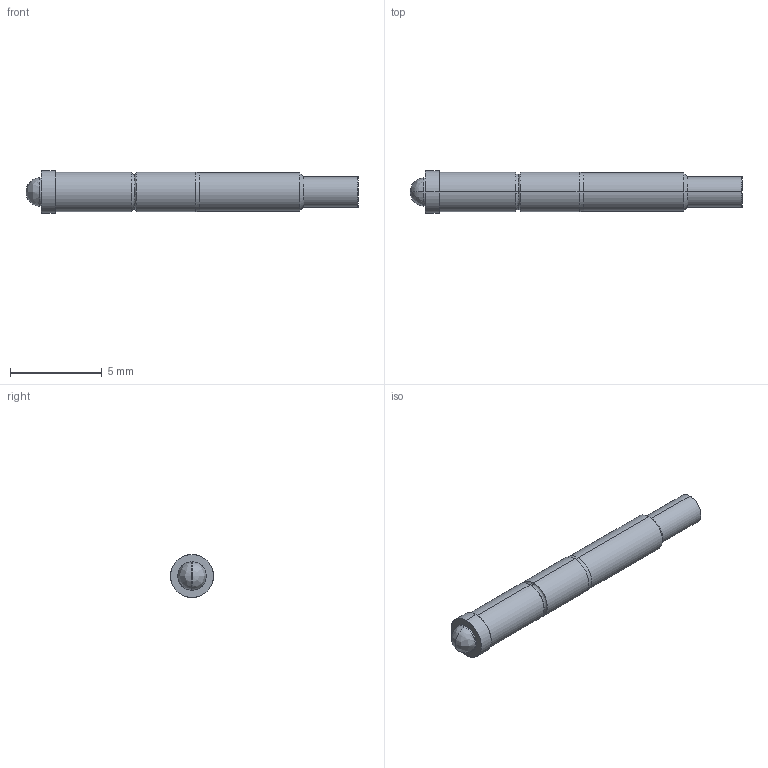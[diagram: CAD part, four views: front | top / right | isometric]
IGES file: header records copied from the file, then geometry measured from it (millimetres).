
Start section: SolidWorks IGES file using analytic representation for surfaces
Global section: file name: O:\PYLON\IGES FILES\G-S\G-S-R REC'D.IGS; native system: SolidWorks 2015; preprocessor: SolidWorks 2015; author: kgolden; date: 171024.094248; units: inch
Bounding box: 18.11 x 2.34 x 2.34 mm (x, y, z)
Surface area: 135.3 mm2 (no closed solid volume)
Topology: 0 solids, 0 shells, 29 faces, 264 edges, 264 vertices
Faces by surface type: revolution 18, bspline 11
